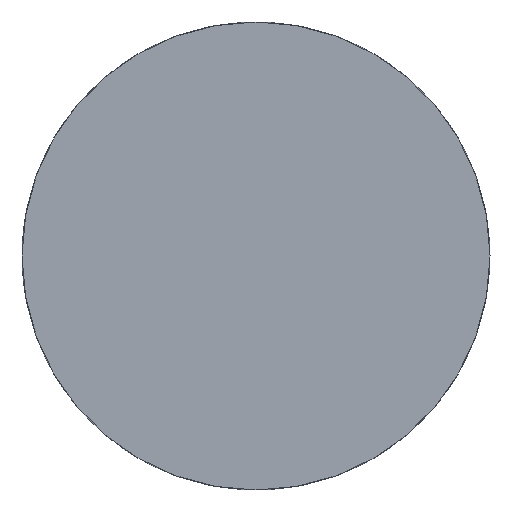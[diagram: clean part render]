
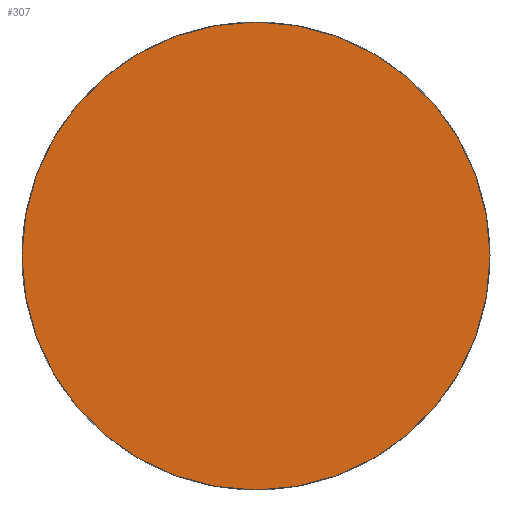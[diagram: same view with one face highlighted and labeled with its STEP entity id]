
A CAD part, left-side view. The second image highlights one B-rep face of the part: STEP entity #307.
In plain terms, the highlighted planar face has unit normal (-1, 0, 0).
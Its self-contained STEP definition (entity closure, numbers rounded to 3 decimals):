
#307 = ADVANCED_FACE( '', ( #663 ), #664, .F. );
#663 = FACE_OUTER_BOUND( '', #1064, .T. );
#664 = PLANE( '', #1065 );
#1064 = EDGE_LOOP( '', ( #2051 ) );
#1065 = AXIS2_PLACEMENT_3D( '', #2052, #2053, #2054 );
#2051 = ORIENTED_EDGE( '', *, *, #2869, .F. );
#2052 = CARTESIAN_POINT( '', ( 0., 0., 0. ) );
#2053 = DIRECTION( '', ( 1., 0., 0. ) );
#2054 = DIRECTION( '', ( 0., 1., 0. ) );
#2869 = EDGE_CURVE( '', #3618, #3618, #3619, .T. );
#3618 = VERTEX_POINT( '', #4561 );
#3619 = CIRCLE( '', #4562, 12.16 );
#4561 = CARTESIAN_POINT( '', ( 0., 12.16, 0. ) );
#4562 = AXIS2_PLACEMENT_3D( '', #5363, #5364, #5365 );
#5363 = CARTESIAN_POINT( '', ( 0., 0., 0. ) );
#5364 = DIRECTION( '', ( 1., 0., 0. ) );
#5365 = DIRECTION( '', ( 0., 1., 0. ) );
